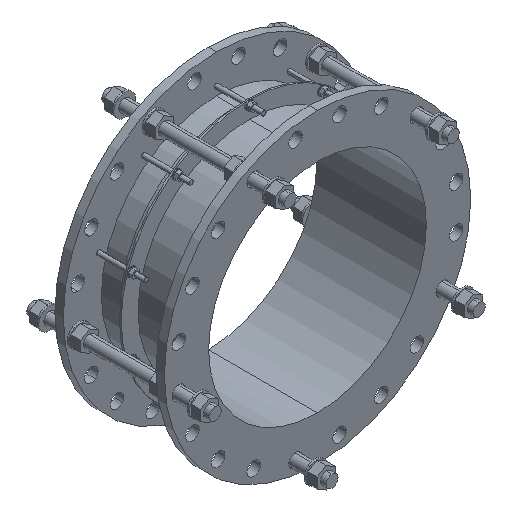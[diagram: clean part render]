
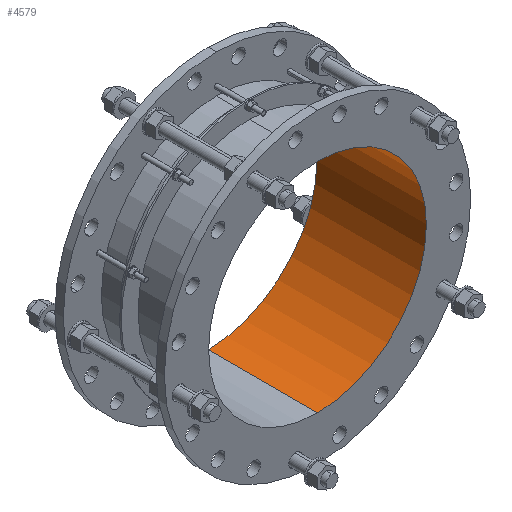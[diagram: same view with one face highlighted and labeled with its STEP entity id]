
A CAD part, isometric view. The second image highlights one B-rep face of the part: STEP entity #4579.
In plain terms, the highlighted cylindrical face has radius 298.5 mm (diameter 597 mm), a partial arc.
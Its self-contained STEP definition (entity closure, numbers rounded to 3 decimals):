
#7=DIRECTION('',(0.,-1.,0.));
#8=VECTOR('',#7,300.);
#9=CARTESIAN_POINT('',(0.,0.,-298.5));
#10=LINE('',#9,#8);
#11=CARTESIAN_POINT('',(0.,0.,0.));
#12=DIRECTION('',(0.,-1.,0.));
#13=DIRECTION('',(0.,0.,-1.));
#14=AXIS2_PLACEMENT_3D('',#11,#12,#13);
#16=DIRECTION('',(0.,-1.,0.));
#17=VECTOR('',#16,300.);
#18=CARTESIAN_POINT('',(0.,0.,298.5));
#19=LINE('',#18,#17);
#1464=CARTESIAN_POINT('',(0.,-300.,0.));
#1465=DIRECTION('',(0.,-1.,0.));
#1466=DIRECTION('',(0.,0.,-1.));
#1467=AXIS2_PLACEMENT_3D('',#1464,#1465,#1466);
#3650=CARTESIAN_POINT('',(0.,0.,-298.5));
#3651=CARTESIAN_POINT('',(0.,-300.,-298.5));
#3652=VERTEX_POINT('',#3650);
#3653=VERTEX_POINT('',#3651);
#3670=CARTESIAN_POINT('',(0.,0.,298.5));
#3671=CARTESIAN_POINT('',(0.,-300.,298.5));
#3672=VERTEX_POINT('',#3670);
#3673=VERTEX_POINT('',#3671);
#4566=CARTESIAN_POINT('',(0.,-315.,0.));
#4567=DIRECTION('',(0.,1.,0.));
#4568=DIRECTION('',(0.,0.,-1.));
#4569=AXIS2_PLACEMENT_3D('',#4566,#4567,#4568);
#4570=CYLINDRICAL_SURFACE('',#4569,298.5);
#4571=ORIENTED_EDGE('',*,*,#4555,.F.);
#4573=ORIENTED_EDGE('',*,*,#4572,.T.);
#4574=ORIENTED_EDGE('',*,*,#4559,.T.);
#4576=ORIENTED_EDGE('',*,*,#4575,.F.);
#4577=EDGE_LOOP('',(#4571,#4573,#4574,#4576));
#4578=FACE_OUTER_BOUND('',#4577,.F.);
#4579=ADVANCED_FACE('',(#4578),#4570,.F.);
#15=CIRCLE('',#14,298.5);
#1468=CIRCLE('',#1467,298.5);
#4555=EDGE_CURVE('',#3652,#3653,#10,.T.);
#4559=EDGE_CURVE('',#3672,#3673,#19,.T.);
#4572=EDGE_CURVE('',#3652,#3672,#15,.T.);
#4575=EDGE_CURVE('',#3653,#3673,#1468,.T.);
